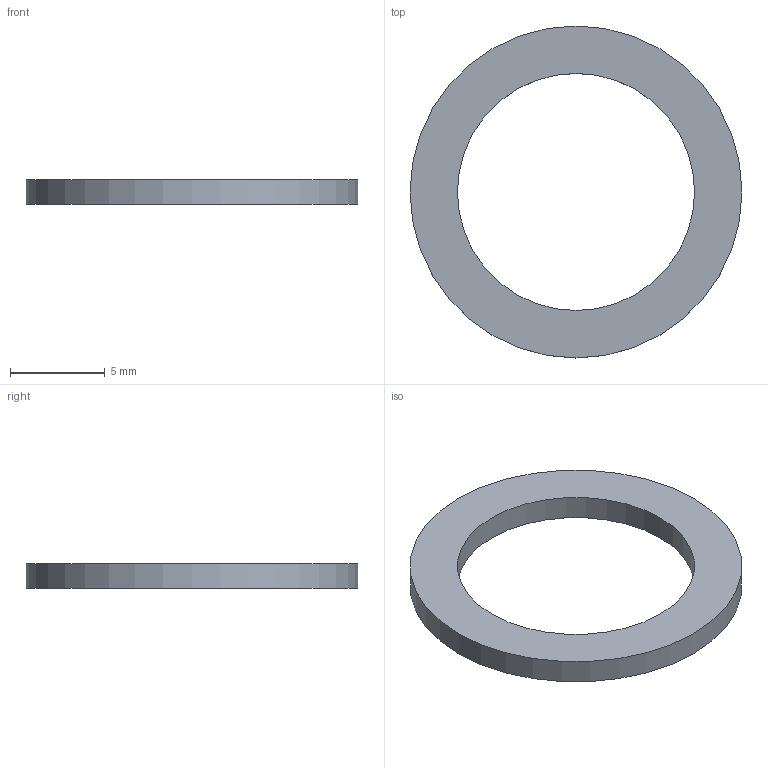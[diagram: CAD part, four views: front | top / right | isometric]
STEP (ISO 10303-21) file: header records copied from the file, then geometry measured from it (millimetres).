
FILE_DESCRIPTION(/* description */ (''),/* implementation_level */ '2;1');
FILE_NAME(/* name */ '4004598.stp',/* time_stamp */ '2019-06-25T08:47:44+02:00',/* author */ (''),/* organization */ (''),/* preprocessor_version */ 'ST-DEVELOPER v16.7',/* originating_system */ 'SIEMENS PLM Software NX 1867',/* authorisation */ '');
FILE_SCHEMA (('AUTOMOTIVE_DESIGN { 1 0 10303 214 3 1 1 1 }'));
Length unit declared in the file: millimetre
Products named in the file (1): BSOM05B81FA5n6xn
Bounding box: 17.5 x 17.5 x 1.3 mm (x, y, z)
Volume: 153.2 mm3; surface area: 358.1 mm2
Topology: 1 solids, 1 shells, 4 faces, 7 edges, 5 vertices
Faces by surface type: cylinder 2, plane 2
Full cylindrical faces by diameter (mm): 12.5 x1, 17.5 x1
Entity records: 120 total; most frequent: DIRECTION 18, CARTESIAN_POINT 13, AXIS2_PLACEMENT_3D 9, FACE_BOUND 8, EDGE_LOOP 8, ORIENTED_EDGE 8, ADVANCED_FACE 4, VERTEX_POINT 4
